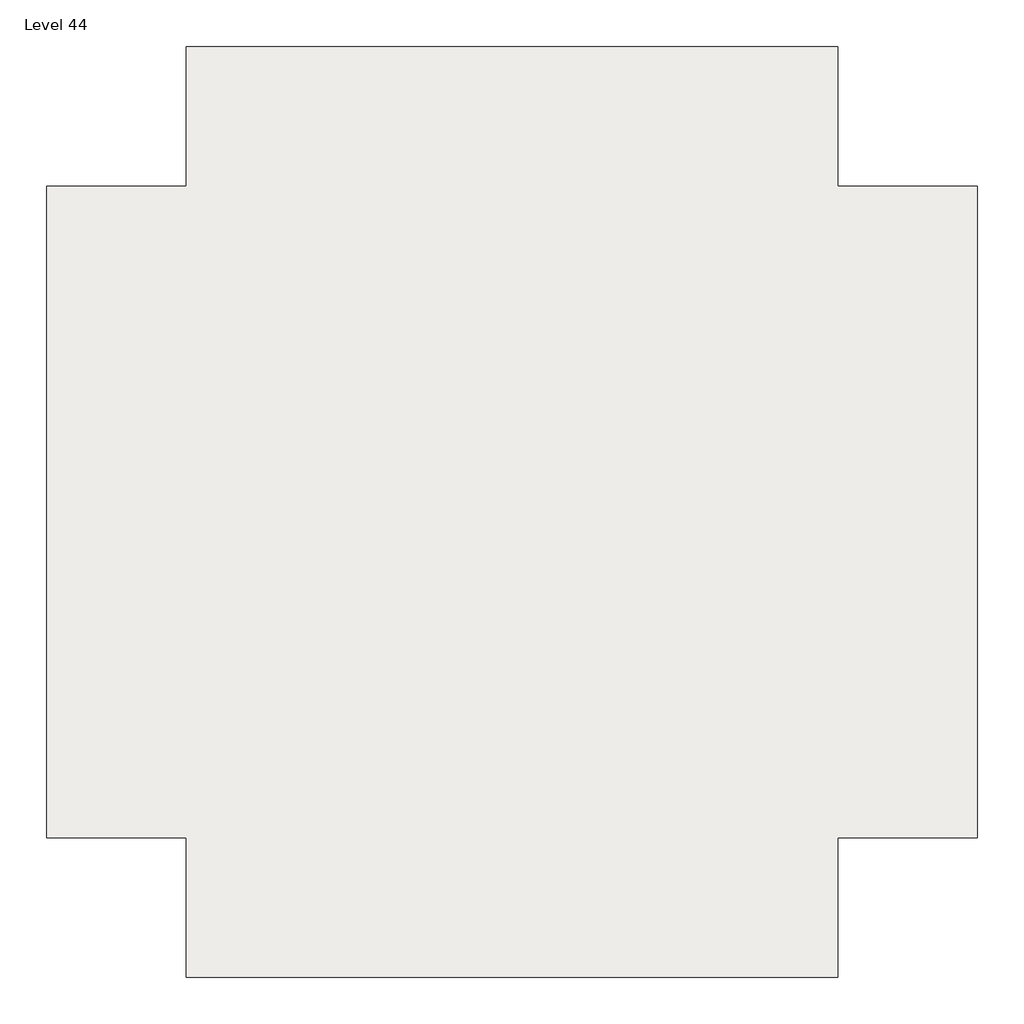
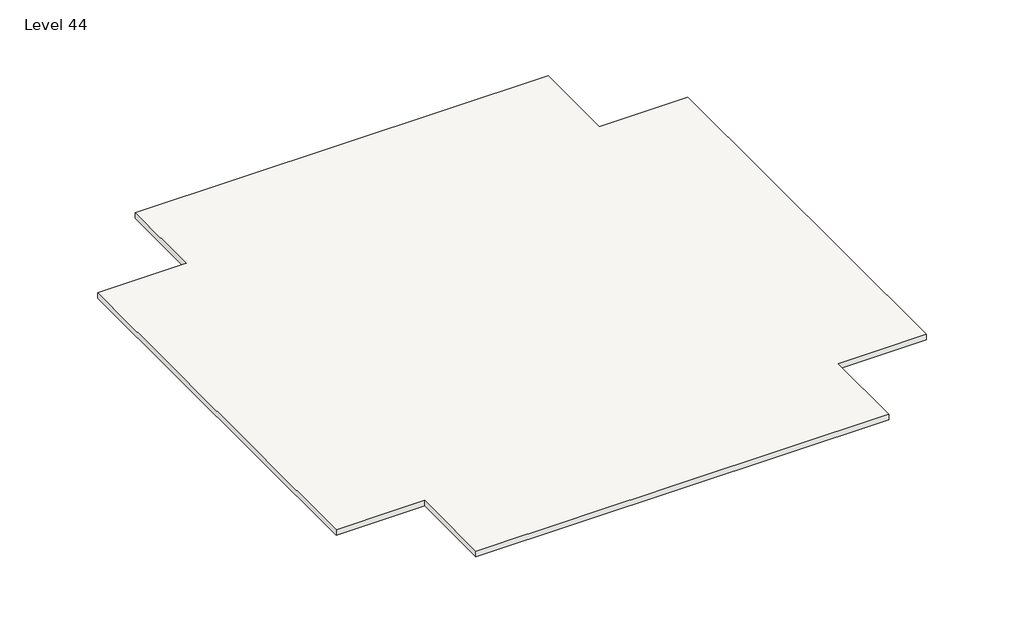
# One storey: 2 slabs.
"""IFC4 building model written with IfcOpenShell, lengths in millimetres."""

import ifcopenshell
import ifcopenshell.guid

model = None  # the IFC model being written
_history = None  # IfcOwnerHistory: only IFC2X3 demands one
_inside = {}  # id of a spatial element -> (the spatial element, [elements in it])
_under = {}  # id of a project, library or spatial element -> (it, [spatial elements below it])
_declared = {}  # id of a project -> (the project, [libraries it declares])
_typed = {}  # id of a type object -> (the type object, [elements of that type])
_made_of = {}  # id of a material, layer set ... -> (it, [elements and type objects made of it])


def new_model(schema):
    """Start an empty IFC model of exactly this schema.

    Asked for "IFC4X3", IfcOpenShell would pick the latest addendum, in which some entities
    have other attributes; the version numbers below select the first issue.
    IFC2X3 requires an IfcOwnerHistory on every rooted entity: one is made here for all.
    """
    global model, _history
    if schema == "IFC4X3":
        model = ifcopenshell.file(schema_version=(4, 3, 0, 0))
    else:
        model = ifcopenshell.file(schema=schema)
    _inside.clear()
    _under.clear()
    _declared.clear()
    _typed.clear()
    _made_of.clear()
    _history = None
    if model.schema == "IFC2X3":
        org = make("IfcOrganization", Name="unknown")
        user = make(
            "IfcPersonAndOrganization",
            ThePerson=make("IfcPerson", FamilyName="unknown"),
            TheOrganization=org,
        )
        app = make(
            "IfcApplication",
            ApplicationDeveloper=org,
            Version="unknown",
            ApplicationFullName="unknown",
            ApplicationIdentifier="unknown",
        )
        _history = make(
            "IfcOwnerHistory",
            OwningUser=user,
            OwningApplication=app,
            ChangeAction="ADDED",
            CreationDate=0,
        )
    return model


def make(cls, **values):
    """One entity of the class cls with the attributes given. An attribute that is None is left unset."""
    return model.create_entity(
        cls, **{name: value for name, value in values.items() if value is not None}
    )


def rooted(cls, **values):
    """An entity with a GlobalId (a new one), such as an element, a storey or a relation."""
    return make(cls, GlobalId=ifcopenshell.guid.new(), OwnerHistory=_history, **values)


def si_unit(unit_type, name, prefix=None):
    """IfcSIUnit, for example si_unit("LENGTHUNIT", "METRE", prefix="MILLI")."""
    return make("IfcSIUnit", UnitType=unit_type, Prefix=prefix, Name=name)


def assignment(units):
    """IfcUnitAssignment: the units of a project."""
    return None if units is None else make("IfcUnitAssignment", Units=units)


def point(xyz):
    """IfcCartesianPoint."""
    return None if xyz is None else make("IfcCartesianPoint", Coordinates=xyz)


def direction(xyz):
    """IfcDirection."""
    return None if xyz is None else make("IfcDirection", DirectionRatios=xyz)


def frame(location, z_axis=None, x_axis=None):
    """IfcAxis2Placement3D, a coordinate frame: its origin and axes. An axis left out is left unset."""
    return make(
        "IfcAxis2Placement3D",
        Location=point(location),
        Axis=direction(z_axis),
        RefDirection=direction(x_axis),
    )


def origin():
    """The frame at (0, 0, 0) with its axes left unset."""
    return frame((0.0, 0.0, 0.0))


def place(relative_to, where):
    """IfcLocalPlacement: puts the frame where relative to a parent placement (None: the world)."""
    return make(
        "IfcLocalPlacement", PlacementRelTo=relative_to, RelativePlacement=where
    )


def context(
    kind, dimensions, precision=None, world=None, true_north=None, identifier=None
):
    """IfcGeometricRepresentationContext, for example the 3D "Model" context."""
    return make(
        "IfcGeometricRepresentationContext",
        ContextIdentifier=identifier,
        ContextType=kind,
        CoordinateSpaceDimension=dimensions,
        Precision=precision,
        WorldCoordinateSystem=world,
        TrueNorth=true_north,
    )


def project(units=None, contexts=None):
    """IfcProject with its units and contexts."""
    return rooted(
        "IfcProject",
        Name="project",
        RepresentationContexts=contexts,
        UnitsInContext=assignment(units),
    )


def spatial(cls, under=None, at=None, **own):
    """A site, building, storey or space (cls), placed at a placement, below another one or the project."""
    s = rooted(cls, ObjectPlacement=at, **own)
    if under is not None:
        _under.setdefault(under.id(), (under, []))[1].append(s)
    return s


def polyline(points):
    """IfcPolyline through the points."""
    return make("IfcPolyline", Points=[point(p) for p in points])


def outline(outer, holes=None, kind="AREA"):
    """IfcArbitraryClosedProfileDef: a profile drawn as a closed curve; with holes, ...WithVoids."""
    if holes is None:
        return make("IfcArbitraryClosedProfileDef", ProfileType=kind, OuterCurve=outer)
    return make(
        "IfcArbitraryProfileDefWithVoids",
        ProfileType=kind,
        OuterCurve=outer,
        InnerCurves=holes,
    )


def extrude(swept, where, along, depth):
    """IfcExtrudedAreaSolid: the profile swept, set in the frame where, extruded along a direction by depth."""
    return make(
        "IfcExtrudedAreaSolid",
        SweptArea=swept,
        Position=where,
        ExtrudedDirection=direction(along),
        Depth=depth,
    )


def shape(context_of_items, identifier, shape_type, items):
    """IfcShapeRepresentation: the items that make up one representation, for example the "Body"."""
    return make(
        "IfcShapeRepresentation",
        ContextOfItems=context_of_items,
        RepresentationIdentifier=identifier,
        RepresentationType=shape_type,
        Items=items,
    )


def made_of(thing, what):
    """Note that an element or type object is made of a material, layer set ...; save() writes the relation."""
    if what is not None:
        _made_of.setdefault(what.id(), (what, []))[1].append(thing)
    return thing


def element(
    cls,
    number,
    at=None,
    inside=None,
    cuts=None,
    type_object=None,
    material=None,
    context=None,
    identifier="Body",
    shape_type=None,
    held_by="IfcProductDefinitionShape",
    body=None,
    shapes=None,
    **own,
):
    """One element of the class cls, such as IfcWall. Its Tag is "e" and its number.

    at: its placement. inside: the storey or other place that contains it. cuts: it is an
    opening in that element (IfcRelVoidsElement). A single representation is given by context,
    identifier, shape_type and body (its items); several are given by shapes. held_by: the class
    of the entity that holds the representations. save() writes the other relations.
    """
    e = rooted(cls, Tag="e%d" % number, ObjectPlacement=at, **own)
    if body is not None:
        shapes = [shape(context, identifier, shape_type, body)]
    if shapes is not None:
        e.Representation = make(held_by, Representations=shapes)
    if inside is not None:
        _inside.setdefault(inside.id(), (inside, []))[1].append(e)
    if cuts is not None:
        rooted(
            "IfcRelVoidsElement", RelatingBuildingElement=cuts, RelatedOpeningElement=e
        )
    if type_object is not None:
        _typed.setdefault(type_object.id(), (type_object, []))[1].append(e)
    return made_of(e, material)


def aggregate(whole, parts):
    """IfcRelAggregates: a whole, such as a stair, and the parts it consists of."""
    return rooted("IfcRelAggregates", RelatingObject=whole, RelatedObjects=parts)


def save(model, path):
    """Write the relations noted so far, then the file.

    IfcRelAggregates (storeys below a building ...), IfcRelContainedInSpatialStructure (elements
    in a storey), IfcRelDefinesByType, IfcRelAssociatesMaterial and IfcRelDeclares: one each for
    every whole, place, type object, material and project.
    """
    for whole, parts in _under.values():
        aggregate(whole, parts)
    for where, things in _inside.values():
        rooted(
            "IfcRelContainedInSpatialStructure",
            RelatedElements=things,
            RelatingStructure=where,
        )
    for kind, things in _typed.values():
        rooted("IfcRelDefinesByType", RelatedObjects=things, RelatingType=kind)
    for what, things in _made_of.values():
        rooted("IfcRelAssociatesMaterial", RelatedObjects=things, RelatingMaterial=what)
    for by, libraries in _declared.values():
        rooted("IfcRelDeclares", RelatingContext=by, RelatedDefinitions=libraries)
    model.write(path)


model = new_model("IFC4")

# Units and contexts
model_context = context("Model", 3, world=origin())
ifc_project = project(units=[si_unit("LENGTHUNIT", "METRE", prefix="MILLI")], contexts=[model_context])

# Site, building, storey
site = spatial("IfcSite", under=ifc_project)
building = spatial("IfcBuilding", under=site)
storey = spatial("IfcBuildingStorey", under=building, Name="Level 44", Elevation=131064.0)

# Slabs
placement = place(None, origin())
element("IfcSlab", 1, ObjectType="Generic - 12\"", at=placement, inside=storey, context=model_context, shape_type="SweptSolid", body=[
    extrude(outline(polyline([(-7150.3629456, 4479.6634547), (-7150.3629456, 9051.6634547), (14185.6370544, 9051.6634547), (14185.6370544, 4479.6634547), (18757.6370544, 4479.6634547), (18757.6370544, -16856.3365453), (14185.6370544, -16856.3365453), (14185.6370544, -21428.3365453), (-7150.3629456, -21428.3365453), (-7150.3629456, -16856.3365453), (-11722.3629456, -16856.3365453), (-11722.3629456, 4479.6634547), (-7150.3629456, 4479.6634547)])), frame((0.0, 0.0, 130759.2), z_axis=(0.0, 0.0, 1.0), x_axis=(1.0, 0.0, 0.0)), (0.0, 0.0, 1.0), 304.8),
])
element("IfcSlab", 2, ObjectType="Generic - 12\"", at=placement, inside=storey, context=model_context, shape_type="SweptSolid", body=[
    extrude(outline(polyline([(-7150.3629456, 4479.6634547), (-7150.3629456, 9051.6634547), (14185.6370544, 9051.6634547), (14185.6370544, 4479.6634547), (18757.6370544, 4479.6634547), (18757.6370544, -16856.3365453), (14185.6370544, -16856.3365453), (14185.6370544, -21428.3365453), (-7150.3629456, -21428.3365453), (-7150.3629456, -16856.3365453), (-11722.3629456, -16856.3365453), (-11722.3629456, 4479.6634547), (-7150.3629456, 4479.6634547)])), frame((0.0, 0.0, 130759.2), z_axis=(0.0, 0.0, 1.0), x_axis=(1.0, 0.0, 0.0)), (0.0, 0.0, 1.0), 304.8),
])

save(model, "model.ifc")
